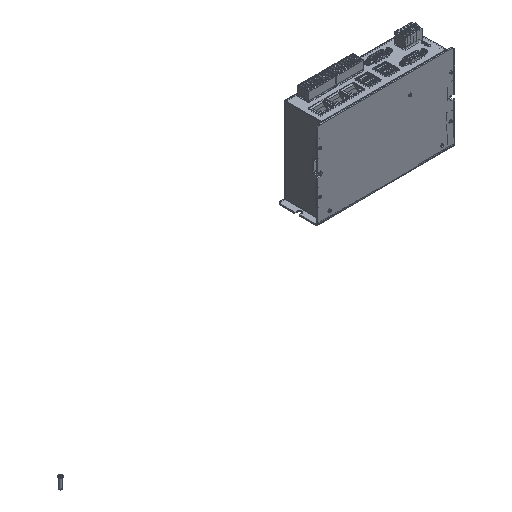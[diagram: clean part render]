
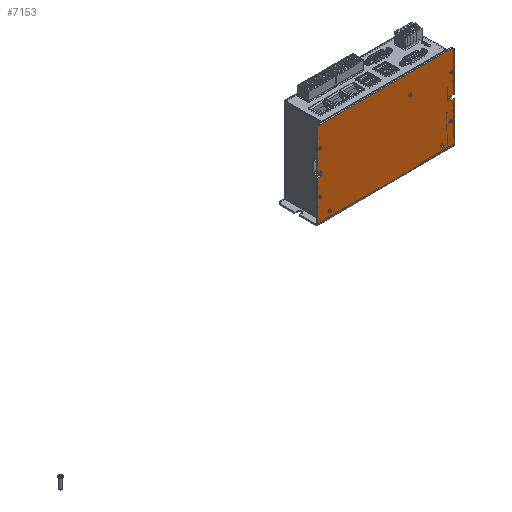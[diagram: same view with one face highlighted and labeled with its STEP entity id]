
A CAD part, isometric view. The second image highlights one B-rep face of the part: STEP entity #7153.
In plain terms, the highlighted planar face has unit normal (0, -1, 0).
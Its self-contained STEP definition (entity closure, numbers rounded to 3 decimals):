
#7153=ADVANCED_FACE('',(#10229,#10230,#10231,#10232,#10233,#10234,#10235,
#10236),#8908,.F.);
#8908=PLANE('',#37115);
#10229=FACE_BOUND('',#10948,.T.);
#10230=FACE_BOUND('',#10949,.T.);
#10231=FACE_BOUND('',#10950,.T.);
#10232=FACE_BOUND('',#10951,.T.);
#10233=FACE_BOUND('',#10952,.T.);
#10234=FACE_BOUND('',#10953,.T.);
#10235=FACE_BOUND('',#10954,.T.);
#10236=FACE_BOUND('',#10955,.T.);
#10948=EDGE_LOOP('',(#14860));
#10949=EDGE_LOOP('',(#14861));
#10950=EDGE_LOOP('',(#14862));
#10951=EDGE_LOOP('',(#14863));
#10952=EDGE_LOOP('',(#14864));
#10953=EDGE_LOOP('',(#14865));
#10954=EDGE_LOOP('',(#14866));
#10955=EDGE_LOOP('',(#14867,#14868,#14869,#14870,#14871,#14872,#14873,#14874,
#14875,#14876,#14877,#14878,#14879,#14880));
#13004=CIRCLE('',#37050,1.25);
#13006=CIRCLE('',#37053,1.25);
#13008=CIRCLE('',#37056,1.25);
#13026=CIRCLE('',#37094,2.5);
#13027=CIRCLE('',#37098,3.);
#13028=CIRCLE('',#37101,3.);
#13029=CIRCLE('',#37105,2.5);
#13030=CIRCLE('',#37111,1.6);
#13031=CIRCLE('',#37112,1.6);
#13032=CIRCLE('',#37113,1.6);
#13033=CIRCLE('',#37114,1.25);
#14860=ORIENTED_EDGE('',*,*,#25872,.F.);
#14861=ORIENTED_EDGE('',*,*,#25870,.F.);
#14862=ORIENTED_EDGE('',*,*,#25962,.F.);
#14863=ORIENTED_EDGE('',*,*,#25963,.F.);
#14864=ORIENTED_EDGE('',*,*,#25964,.F.);
#14865=ORIENTED_EDGE('',*,*,#25868,.F.);
#14866=ORIENTED_EDGE('',*,*,#25965,.F.);
#14867=ORIENTED_EDGE('',*,*,#25966,.T.);
#14868=ORIENTED_EDGE('',*,*,#25959,.F.);
#14869=ORIENTED_EDGE('',*,*,#25956,.F.);
#14870=ORIENTED_EDGE('',*,*,#25936,.F.);
#14871=ORIENTED_EDGE('',*,*,#25939,.F.);
#14872=ORIENTED_EDGE('',*,*,#25941,.F.);
#14873=ORIENTED_EDGE('',*,*,#25943,.F.);
#14874=ORIENTED_EDGE('',*,*,#25945,.F.);
#14875=ORIENTED_EDGE('',*,*,#25947,.F.);
#14876=ORIENTED_EDGE('',*,*,#25949,.F.);
#14877=ORIENTED_EDGE('',*,*,#25951,.F.);
#14878=ORIENTED_EDGE('',*,*,#25953,.F.);
#14879=ORIENTED_EDGE('',*,*,#25955,.F.);
#14880=ORIENTED_EDGE('',*,*,#25961,.F.);
#22786=VERTEX_POINT('',#49399);
#22787=VERTEX_POINT('',#49403);
#22788=VERTEX_POINT('',#49407);
#22835=VERTEX_POINT('',#49537);
#22836=VERTEX_POINT('',#49539);
#22837=VERTEX_POINT('',#49543);
#22838=VERTEX_POINT('',#49547);
#22839=VERTEX_POINT('',#49551);
#22840=VERTEX_POINT('',#49555);
#22841=VERTEX_POINT('',#49559);
#22842=VERTEX_POINT('',#49563);
#22843=VERTEX_POINT('',#49567);
#22844=VERTEX_POINT('',#49571);
#22845=VERTEX_POINT('',#49575);
#22846=VERTEX_POINT('',#49579);
#22847=VERTEX_POINT('',#49583);
#22848=VERTEX_POINT('',#49587);
#22849=VERTEX_POINT('',#49591);
#22850=VERTEX_POINT('',#49593);
#22851=VERTEX_POINT('',#49595);
#22852=VERTEX_POINT('',#49597);
#25868=EDGE_CURVE('',#22786,#22786,#13004,.T.);
#25870=EDGE_CURVE('',#22787,#22787,#13006,.T.);
#25872=EDGE_CURVE('',#22788,#22788,#13008,.T.);
#25936=EDGE_CURVE('',#22835,#22836,#13026,.T.);
#25939=EDGE_CURVE('',#22837,#22835,#30167,.T.);
#25941=EDGE_CURVE('',#22838,#22837,#30169,.T.);
#25943=EDGE_CURVE('',#22839,#22838,#13027,.T.);
#25945=EDGE_CURVE('',#22840,#22839,#30172,.T.);
#25947=EDGE_CURVE('',#22841,#22840,#13028,.T.);
#25949=EDGE_CURVE('',#22842,#22841,#30175,.T.);
#25951=EDGE_CURVE('',#22843,#22842,#30177,.T.);
#25953=EDGE_CURVE('',#22844,#22843,#13029,.T.);
#25955=EDGE_CURVE('',#22845,#22844,#30180,.T.);
#25956=EDGE_CURVE('',#22836,#22846,#30181,.T.);
#25959=EDGE_CURVE('',#22846,#22847,#30184,.T.);
#25961=EDGE_CURVE('',#22848,#22845,#30186,.T.);
#25962=EDGE_CURVE('',#22849,#22849,#13030,.T.);
#25963=EDGE_CURVE('',#22850,#22850,#13031,.T.);
#25964=EDGE_CURVE('',#22851,#22851,#13032,.T.);
#25965=EDGE_CURVE('',#22852,#22852,#13033,.T.);
#25966=EDGE_CURVE('',#22848,#22847,#30187,.T.);
#30167=LINE('',#49544,#33672);
#30169=LINE('',#49548,#33674);
#30172=LINE('',#49556,#33677);
#30175=LINE('',#49564,#33680);
#30177=LINE('',#49568,#33682);
#30180=LINE('',#49576,#33685);
#30181=LINE('',#49578,#33686);
#30184=LINE('',#49584,#33689);
#30186=LINE('',#49588,#33691);
#30187=LINE('',#49598,#33692);
#33672=VECTOR('',#40508,1.);
#33674=VECTOR('',#40512,1.);
#33677=VECTOR('',#40521,1.);
#33680=VECTOR('',#40530,1.);
#33682=VECTOR('',#40534,1.);
#33685=VECTOR('',#40543,1.);
#33686=VECTOR('',#40546,1.);
#33689=VECTOR('',#40551,1.);
#33691=VECTOR('',#40555,1.);
#33692=VECTOR('',#40566,1.);
#37050=AXIS2_PLACEMENT_3D('',#49398,#40368,#40369);
#37053=AXIS2_PLACEMENT_3D('',#49402,#40374,#40375);
#37056=AXIS2_PLACEMENT_3D('',#49406,#40380,#40381);
#37094=AXIS2_PLACEMENT_3D('',#49538,#40502,#40503);
#37098=AXIS2_PLACEMENT_3D('',#49552,#40516,#40517);
#37101=AXIS2_PLACEMENT_3D('',#49560,#40525,#40526);
#37105=AXIS2_PLACEMENT_3D('',#49572,#40538,#40539);
#37111=AXIS2_PLACEMENT_3D('',#49590,#40558,#40559);
#37112=AXIS2_PLACEMENT_3D('',#49592,#40560,#40561);
#37113=AXIS2_PLACEMENT_3D('',#49594,#40562,#40563);
#37114=AXIS2_PLACEMENT_3D('',#49596,#40564,#40565);
#37115=AXIS2_PLACEMENT_3D('',#49599,#40567,#40568);
#40368=DIRECTION('',(0.,-1.,0.));
#40369=DIRECTION('',(-1.,0.,0.));
#40374=DIRECTION('',(0.,-1.,0.));
#40375=DIRECTION('',(-1.,0.,0.));
#40380=DIRECTION('',(0.,-1.,0.));
#40381=DIRECTION('',(-1.,0.,0.));
#40502=DIRECTION('',(0.,-1.,0.));
#40503=DIRECTION('',(1.,0.,0.));
#40508=DIRECTION('',(-1.,0.,0.));
#40512=DIRECTION('',(0.,0.,-1.));
#40516=DIRECTION('',(0.,1.,0.));
#40517=DIRECTION('',(1.,0.,0.));
#40521=DIRECTION('',(1.,0.,0.));
#40525=DIRECTION('',(0.,1.,0.));
#40526=DIRECTION('',(1.,0.,0.));
#40530=DIRECTION('',(0.,0.,1.));
#40534=DIRECTION('',(-1.,0.,0.));
#40538=DIRECTION('',(0.,-1.,0.));
#40539=DIRECTION('',(1.,0.,0.));
#40543=DIRECTION('',(1.,0.,0.));
#40546=DIRECTION('',(1.,0.,0.));
#40551=DIRECTION('',(0.,0.,-1.));
#40555=DIRECTION('',(0.,0.,1.));
#40558=DIRECTION('',(0.,-1.,0.));
#40559=DIRECTION('',(-1.,0.,0.));
#40560=DIRECTION('',(0.,-1.,0.));
#40561=DIRECTION('',(-1.,0.,0.));
#40562=DIRECTION('',(0.,-1.,0.));
#40563=DIRECTION('',(-1.,0.,0.));
#40564=DIRECTION('',(0.,-1.,0.));
#40565=DIRECTION('',(-1.,0.,0.));
#40566=DIRECTION('',(1.,0.,0.004));
#40567=DIRECTION('',(0.,1.,0.));
#40568=DIRECTION('',(-1.,0.,0.));
#49398=CARTESIAN_POINT('',(682.494,219.788,-74.544));
#49399=CARTESIAN_POINT('',(681.244,219.788,-74.544));
#49402=CARTESIAN_POINT('',(527.494,219.788,-24.544));
#49403=CARTESIAN_POINT('',(526.244,219.788,-24.544));
#49406=CARTESIAN_POINT('',(527.494,219.788,-74.544));
#49407=CARTESIAN_POINT('',(526.244,219.788,-74.544));
#49537=CARTESIAN_POINT('',(682.994,219.788,-48.282));
#49538=CARTESIAN_POINT('',(682.994,219.788,-50.782));
#49539=CARTESIAN_POINT('',(682.994,219.788,-53.282));
#49543=CARTESIAN_POINT('',(685.994,219.788,-48.282));
#49544=CARTESIAN_POINT('',(685.994,219.788,-48.282));
#49547=CARTESIAN_POINT('',(685.994,219.788,-3.044));
#49548=CARTESIAN_POINT('',(685.994,219.788,-3.044));
#49551=CARTESIAN_POINT('',(682.994,219.788,-0.044));
#49552=CARTESIAN_POINT('',(682.994,219.788,-3.044));
#49555=CARTESIAN_POINT('',(526.994,219.788,-0.044));
#49556=CARTESIAN_POINT('',(526.994,219.788,-0.044));
#49559=CARTESIAN_POINT('',(523.994,219.788,-3.044));
#49560=CARTESIAN_POINT('',(526.994,219.788,-3.044));
#49563=CARTESIAN_POINT('',(523.994,219.788,-48.282));
#49564=CARTESIAN_POINT('',(523.994,219.788,-48.282));
#49567=CARTESIAN_POINT('',(526.994,219.788,-48.282));
#49568=CARTESIAN_POINT('',(526.994,219.788,-48.282));
#49571=CARTESIAN_POINT('',(526.994,219.788,-53.282));
#49572=CARTESIAN_POINT('',(526.994,219.788,-50.782));
#49575=CARTESIAN_POINT('',(523.994,219.788,-53.282));
#49576=CARTESIAN_POINT('',(523.994,219.788,-53.282));
#49578=CARTESIAN_POINT('',(682.994,219.788,-53.282));
#49579=CARTESIAN_POINT('',(685.994,219.788,-53.282));
#49583=CARTESIAN_POINT('',(685.994,219.788,-99.966));
#49584=CARTESIAN_POINT('',(685.994,219.788,-53.282));
#49587=CARTESIAN_POINT('',(523.994,219.788,-100.572));
#49588=CARTESIAN_POINT('',(523.994,219.788,-122.188));
#49590=CARTESIAN_POINT('',(538.744,219.788,-94.591));
#49591=CARTESIAN_POINT('',(537.144,219.788,-94.591));
#49592=CARTESIAN_POINT('',(634.044,219.788,-23.445));
#49593=CARTESIAN_POINT('',(632.444,219.788,-23.445));
#49594=CARTESIAN_POINT('',(671.905,219.788,-94.337));
#49595=CARTESIAN_POINT('',(670.305,219.788,-94.337));
#49596=CARTESIAN_POINT('',(682.494,219.788,-24.544));
#49597=CARTESIAN_POINT('',(681.244,219.788,-24.544));
#49598=CARTESIAN_POINT('',(685.985,219.788,-99.966));
#49599=CARTESIAN_POINT('',(526.994,219.788,-3.044));
